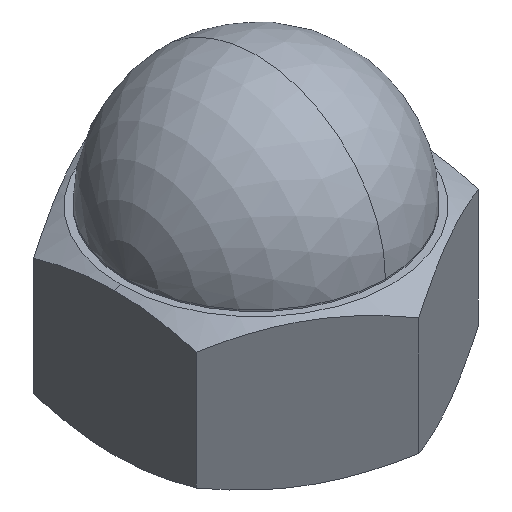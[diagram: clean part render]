
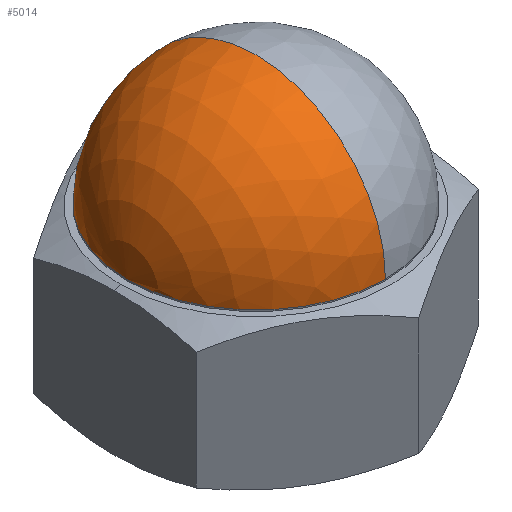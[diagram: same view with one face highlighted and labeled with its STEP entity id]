
A CAD part, isometric view. The second image highlights one B-rep face of the part: STEP entity #5014.
In plain terms, the highlighted spherical face has radius 25.25 mm.
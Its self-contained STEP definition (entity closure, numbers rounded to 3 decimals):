
#19 = AXIS2_PLACEMENT_3D ( 'NONE', #2353, #3842, #1259 ) ;
#35 = ORIENTED_EDGE ( 'NONE', *, *, #5651, .F. ) ;
#56 = EDGE_CURVE ( 'NONE', #2671, #5204, #2462, .T. ) ;
#117 = CIRCLE ( 'NONE', #3541, 25.25 ) ;
#408 = DIRECTION ( 'NONE',  ( 0., 0., -1. ) ) ;
#966 = DIRECTION ( 'NONE',  ( 0., 1., 0. ) ) ;
#1259 = DIRECTION ( 'NONE',  ( 0., 1., 0. ) ) ;
#1572 = CARTESIAN_POINT ( 'NONE',  ( 0., 0., 29.25 ) ) ;
#1645 = AXIS2_PLACEMENT_3D ( 'NONE', #3705, #6323, #6354 ) ;
#1793 = AXIS2_PLACEMENT_3D ( 'NONE', #3485, #408, #966 ) ;
#1975 = CIRCLE ( 'NONE', #1645, 25.25 ) ;
#2151 = CARTESIAN_POINT ( 'NONE',  ( 0., 0., 54.5 ) ) ;
#2353 = CARTESIAN_POINT ( 'NONE',  ( 0., 0., 29.25 ) ) ;
#2462 = CIRCLE ( 'NONE', #1793, 25.25 ) ;
#2671 = VERTEX_POINT ( 'NONE', #3173 ) ;
#2718 = FACE_OUTER_BOUND ( 'NONE', #5863, .T. ) ;
#3050 = DIRECTION ( 'NONE',  ( -1., 0., 0. ) ) ;
#3173 = CARTESIAN_POINT ( 'NONE',  ( 0., -25.25, 29.25 ) ) ;
#3299 = SPHERICAL_SURFACE ( 'NONE', #19, 25.25 ) ;
#3470 = EDGE_CURVE ( 'NONE', #5688, #5204, #117, .T. ) ;
#3485 = CARTESIAN_POINT ( 'NONE',  ( 0., 0., 29.25 ) ) ;
#3541 = AXIS2_PLACEMENT_3D ( 'NONE', #1572, #3050, #4222 ) ;
#3705 = CARTESIAN_POINT ( 'NONE',  ( 0., 0., 29.25 ) ) ;
#3842 = DIRECTION ( 'NONE',  ( 1., 0., 0. ) ) ;
#4222 = DIRECTION ( 'NONE',  ( 0., 0., 1. ) ) ;
#4663 = CARTESIAN_POINT ( 'NONE',  ( 0., 25.25, 29.25 ) ) ;
#4888 = ORIENTED_EDGE ( 'NONE', *, *, #56, .F. ) ;
#5014 = ADVANCED_FACE ( 'NONE', ( #2718 ), #3299, .T. ) ;
#5050 = ORIENTED_EDGE ( 'NONE', *, *, #3470, .T. ) ;
#5204 = VERTEX_POINT ( 'NONE', #4663 ) ;
#5651 = EDGE_CURVE ( 'NONE', #5688, #2671, #1975, .T. ) ;
#5688 = VERTEX_POINT ( 'NONE', #2151 ) ;
#5863 = EDGE_LOOP ( 'NONE', ( #35, #5050, #4888 ) ) ;
#6323 = DIRECTION ( 'NONE',  ( 1., 0., 0. ) ) ;
#6354 = DIRECTION ( 'NONE',  ( 0., 1., 0. ) ) ;
